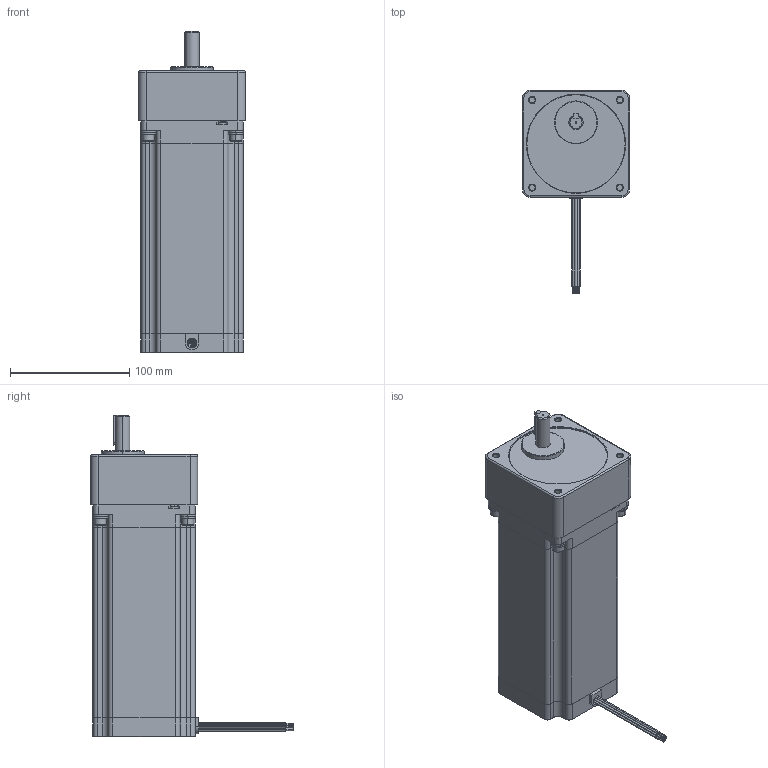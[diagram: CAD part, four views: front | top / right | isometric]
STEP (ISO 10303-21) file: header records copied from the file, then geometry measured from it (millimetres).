
FILE_DESCRIPTION (( 'STEP AP214' ), '1' );
FILE_NAME ('34YSG408S-LW8-R12.5.STEP', '2010-06-18T16:53:34', ( 'Tim Raines' ), ( 'Anaheim Automation' ), 'SwSTEP 2.0', 'SolidWorks 2010', '' );
FILE_SCHEMA (( 'AUTOMOTIVE_DESIGN' ));
Length unit declared in the file: millimetre
Products named in the file (6): 34SG Series_34SG1; Flat Washer Narrow_AM_B18.22M - Plain washer, 6 mm, narrow; Lock Washer Spring Regular_AI_Regular LW 0.25; Socket Head Cap Screw_AM_B18.3.1M - 6 x 1.0 x 20 Hex SHCS -- 20NHX; 34YSG Motor_34YSG408S-LW8; 34YSG408S-LW8-R12.5
Assembly tree (14 placements, depth 2):
  34YSG408S-LW8-R12.5
    Flat Washer Narrow_AM_B18.22M - Plain washer, 6 mm, narrow  x4
    Socket Head Cap Screw_AM_B18.3.1M - 6 x 1.0 x 20 Hex SHCS -- 20NHX  x4
    Lock Washer Spring Regular_AI_Regular LW 0.25  x4
    34SG Series_34SG1
    34YSG Motor_34YSG408S-LW8
Bounding box: 89.92 x 170.43 x 270.08 mm (x, y, z)
Volume: 1640724 mm3; surface area: 126461.1 mm2
Topology: 14 solids, 14 shells, 575 faces, 1363 edges, 848 vertices
Faces by surface type: plane 272, cylinder 190, cone 93, torus 20
Entity records: 18465 total; most frequent: CARTESIAN_POINT 2581, DIRECTION 2415, ORIENTED_EDGE 2214, EDGE_CURVE 1107, AXIS2_PLACEMENT_3D 895, VERTEX_POINT 701, VECTOR 625, LINE 625
